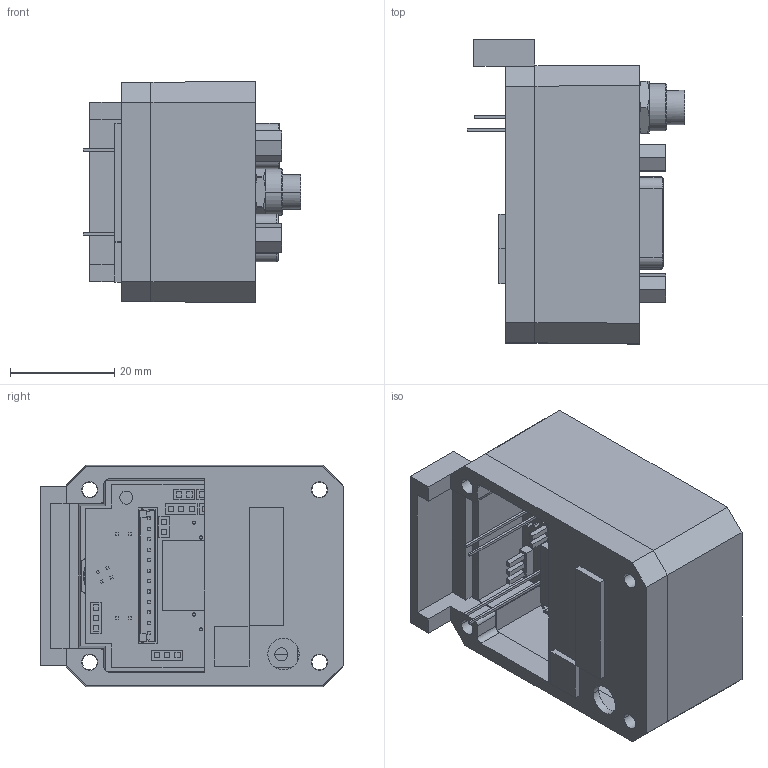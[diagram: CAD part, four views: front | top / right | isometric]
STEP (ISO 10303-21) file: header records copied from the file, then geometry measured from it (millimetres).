
FILE_DESCRIPTION (( 'STEP AP203' ), '1' );
FILE_NAME ('CM1SRL.STEP', '2010-06-25T17:34:11', ( 'render' ), ( '' ), 'SwSTEP 2.0', 'SolidWorks 2009', '' );
FILE_SCHEMA (( 'CONFIG_CONTROL_DESIGN' ));
Length unit declared in the file: millimetre
Products named in the file (1): CM1SRL
Bounding box: 41.7 x 58.17 x 42.35 mm (x, y, z)
Volume: 27846.3 mm3; surface area: 29039.3 mm2
Topology: 22 solids, 22 shells, 1402 faces, 3411 edges, 2210 vertices
Faces by surface type: plane 907, cylinder 362, bspline 95, cone 36, sphere 2
Entity records: 45637 total; most frequent: CARTESIAN_POINT 12644, ORIENTED_EDGE 6806, DIRECTION 6566, EDGE_CURVE 3403, LINE 2454, VECTOR 2454, VERTEX_POINT 2209, AXIS2_PLACEMENT_3D 2056
